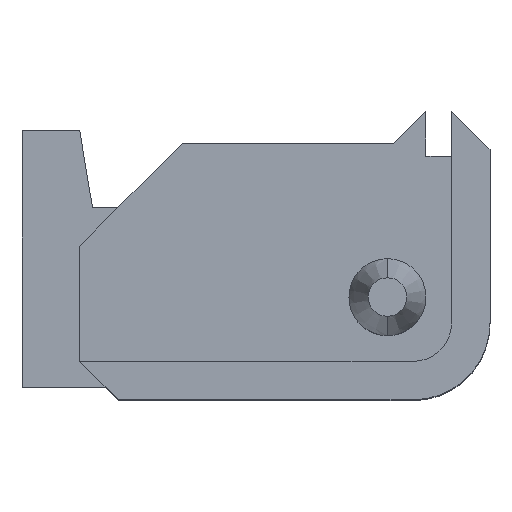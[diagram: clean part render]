
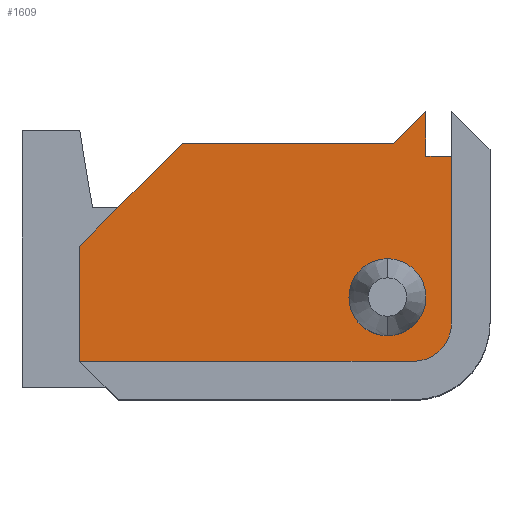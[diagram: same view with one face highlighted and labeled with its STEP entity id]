
A CAD part, top view. The second image highlights one B-rep face of the part: STEP entity #1609.
In plain terms, the highlighted planar face has unit normal (0, 0, 1).
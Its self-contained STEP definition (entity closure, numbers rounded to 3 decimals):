
#7 = CARTESIAN_POINT ( 'NONE',  ( -30., -5., 13. ) ) ;
#35 = DIRECTION ( 'NONE',  ( 0.707, 0.707, 0. ) ) ;
#45 = CARTESIAN_POINT ( 'NONE',  ( -5.75, 5.75, 13. ) ) ;
#93 = VERTEX_POINT ( 'NONE', #1613 ) ;
#148 = ORIENTED_EDGE ( 'NONE', *, *, #899, .F. ) ;
#155 = CARTESIAN_POINT ( 'NONE',  ( 2., -2., 13. ) ) ;
#156 = VECTOR ( 'NONE', #1030, 1000. ) ;
#169 = PLANE ( 'NONE',  #560 ) ;
#232 = DIRECTION ( 'NONE',  ( 0., -1., 0. ) ) ;
#243 = CARTESIAN_POINT ( 'NONE',  ( 3., 0., 13. ) ) ;
#283 = VECTOR ( 'NONE', #232, 1000. ) ;
#344 = VERTEX_POINT ( 'NONE', #1714 ) ;
#366 = DIRECTION ( 'NONE',  ( 1., 0., 0. ) ) ;
#472 = DIRECTION ( 'NONE',  ( 0., 0., 1. ) ) ;
#506 = VERTEX_POINT ( 'NONE', #1185 ) ;
#511 = VERTEX_POINT ( 'NONE', #744 ) ;
#521 = CARTESIAN_POINT ( 'NONE',  ( 0., 12., 13. ) ) ;
#534 = CARTESIAN_POINT ( 'NONE',  ( 5., 11., 13. ) ) ;
#560 = AXIS2_PLACEMENT_3D ( 'NONE', #155, #878, #1694 ) ;
#615 = AXIS2_PLACEMENT_3D ( 'NONE', #1825, #1135, #2000 ) ;
#651 = DIRECTION ( 'NONE',  ( 1., 0., 0. ) ) ;
#653 = VECTOR ( 'NONE', #1870, 1000. ) ;
#658 = VERTEX_POINT ( 'NONE', #534 ) ;
#734 = VECTOR ( 'NONE', #366, 1000. ) ;
#735 = ORIENTED_EDGE ( 'NONE', *, *, #2099, .F. ) ;
#744 = CARTESIAN_POINT ( 'NONE',  ( -24., 4., 13. ) ) ;
#794 = LINE ( 'NONE', #7, #734 ) ;
#809 = ORIENTED_EDGE ( 'NONE', *, *, #1666, .F. ) ;
#812 = CARTESIAN_POINT ( 'NONE',  ( 0., 0., 13. ) ) ;
#847 = VERTEX_POINT ( 'NONE', #1862 ) ;
#878 = DIRECTION ( 'NONE',  ( 0., 0., 1. ) ) ;
#887 = FACE_OUTER_BOUND ( 'NONE', #1462, .T. ) ;
#899 = EDGE_CURVE ( 'NONE', #511, #2009, #1521, .T. ) ;
#904 = ORIENTED_EDGE ( 'NONE', *, *, #1456, .F. ) ;
#962 = LINE ( 'NONE', #1699, #1007 ) ;
#1000 = VERTEX_POINT ( 'NONE', #1321 ) ;
#1006 = CARTESIAN_POINT ( 'NONE',  ( 5., 11., 13. ) ) ;
#1007 = VECTOR ( 'NONE', #1718, 1000. ) ;
#1015 = CARTESIAN_POINT ( 'NONE',  ( -24., -5., 13. ) ) ;
#1030 = DIRECTION ( 'NONE',  ( 0., 1., 0. ) ) ;
#1044 = ORIENTED_EDGE ( 'NONE', *, *, #1232, .F. ) ;
#1049 = CARTESIAN_POINT ( 'NONE',  ( 2., -5., 13. ) ) ;
#1079 = EDGE_CURVE ( 'NONE', #344, #93, #1781, .T. ) ;
#1100 = LINE ( 'NONE', #521, #653 ) ;
#1111 = ORIENTED_EDGE ( 'NONE', *, *, #1631, .T. ) ;
#1135 = DIRECTION ( 'NONE',  ( 0., 0., 1. ) ) ;
#1162 = LINE ( 'NONE', #1006, #156 ) ;
#1163 = AXIS2_PLACEMENT_3D ( 'NONE', #812, #472, #651 ) ;
#1173 = EDGE_CURVE ( 'NONE', #1348, #658, #1162, .T. ) ;
#1185 = CARTESIAN_POINT ( 'NONE',  ( 3., 0., 13. ) ) ;
#1215 = VECTOR ( 'NONE', #35, 1000. ) ;
#1232 = EDGE_CURVE ( 'NONE', #847, #658, #962, .T. ) ;
#1275 = FACE_BOUND ( 'NONE', #1774, .T. ) ;
#1321 = CARTESIAN_POINT ( 'NONE',  ( -3., 0., 13. ) ) ;
#1348 = VERTEX_POINT ( 'NONE', #1690 ) ;
#1371 = AXIS2_PLACEMENT_3D ( 'NONE', #1876, #2039, #2163 ) ;
#1375 = CIRCLE ( 'NONE', #1163, 3. ) ;
#1377 = DIRECTION ( 'NONE',  ( 0.707, 0.707, 0. ) ) ;
#1387 = ORIENTED_EDGE ( 'NONE', *, *, #1079, .F. ) ;
#1420 = ORIENTED_EDGE ( 'NONE', *, *, #2141, .F. ) ;
#1439 = CIRCLE ( 'NONE', #615, 3. ) ;
#1452 = EDGE_CURVE ( 'NONE', #1910, #1348, #1526, .T. ) ;
#1456 = EDGE_CURVE ( 'NONE', #2009, #344, #1100, .T. ) ;
#1462 = EDGE_LOOP ( 'NONE', ( #809, #1387, #904, #148, #1648, #1111, #1855, #1639, #1044 ) ) ;
#1470 = VECTOR ( 'NONE', #1377, 1000. ) ;
#1471 = LINE ( 'NONE', #1863, #1836 ) ;
#1506 = EDGE_CURVE ( 'NONE', #1828, #511, #1471, .T. ) ;
#1521 = LINE ( 'NONE', #1558, #1470 ) ;
#1526 = CIRCLE ( 'NONE', #1371, 3. ) ;
#1557 = LINE ( 'NONE', #243, #283 ) ;
#1558 = CARTESIAN_POINT ( 'NONE',  ( -14., 14., 13. ) ) ;
#1609 = ADVANCED_FACE ( 'NONE', ( #1275, #887 ), #169, .T. ) ;
#1613 = CARTESIAN_POINT ( 'NONE',  ( 3., 14.5, 13. ) ) ;
#1631 = EDGE_CURVE ( 'NONE', #1828, #1910, #794, .T. ) ;
#1639 = ORIENTED_EDGE ( 'NONE', *, *, #1173, .T. ) ;
#1648 = ORIENTED_EDGE ( 'NONE', *, *, #1506, .F. ) ;
#1666 = EDGE_CURVE ( 'NONE', #93, #847, #1557, .T. ) ;
#1690 = CARTESIAN_POINT ( 'NONE',  ( 5., -2., 13. ) ) ;
#1694 = DIRECTION ( 'NONE',  ( 1., 0., 0. ) ) ;
#1699 = CARTESIAN_POINT ( 'NONE',  ( 0., 11., 13. ) ) ;
#1714 = CARTESIAN_POINT ( 'NONE',  ( 0.5, 12., 13. ) ) ;
#1718 = DIRECTION ( 'NONE',  ( 1., 0., 0. ) ) ;
#1732 = DIRECTION ( 'NONE',  ( 0., 1., 0. ) ) ;
#1774 = EDGE_LOOP ( 'NONE', ( #1420, #735 ) ) ;
#1781 = LINE ( 'NONE', #45, #1215 ) ;
#1825 = CARTESIAN_POINT ( 'NONE',  ( 0., 0., 13. ) ) ;
#1828 = VERTEX_POINT ( 'NONE', #1015 ) ;
#1836 = VECTOR ( 'NONE', #1732, 1000. ) ;
#1855 = ORIENTED_EDGE ( 'NONE', *, *, #1452, .T. ) ;
#1862 = CARTESIAN_POINT ( 'NONE',  ( 3., 11., 13. ) ) ;
#1863 = CARTESIAN_POINT ( 'NONE',  ( -24., 0., 13. ) ) ;
#1870 = DIRECTION ( 'NONE',  ( 1., 0., 0. ) ) ;
#1876 = CARTESIAN_POINT ( 'NONE',  ( 2., -2., 13. ) ) ;
#1910 = VERTEX_POINT ( 'NONE', #1049 ) ;
#2000 = DIRECTION ( 'NONE',  ( 1., 0., 0. ) ) ;
#2009 = VERTEX_POINT ( 'NONE', #2108 ) ;
#2039 = DIRECTION ( 'NONE',  ( 0., 0., 1. ) ) ;
#2099 = EDGE_CURVE ( 'NONE', #506, #1000, #1439, .T. ) ;
#2108 = CARTESIAN_POINT ( 'NONE',  ( -16., 12., 13. ) ) ;
#2141 = EDGE_CURVE ( 'NONE', #1000, #506, #1375, .T. ) ;
#2163 = DIRECTION ( 'NONE',  ( 1., 0., 0. ) ) ;
